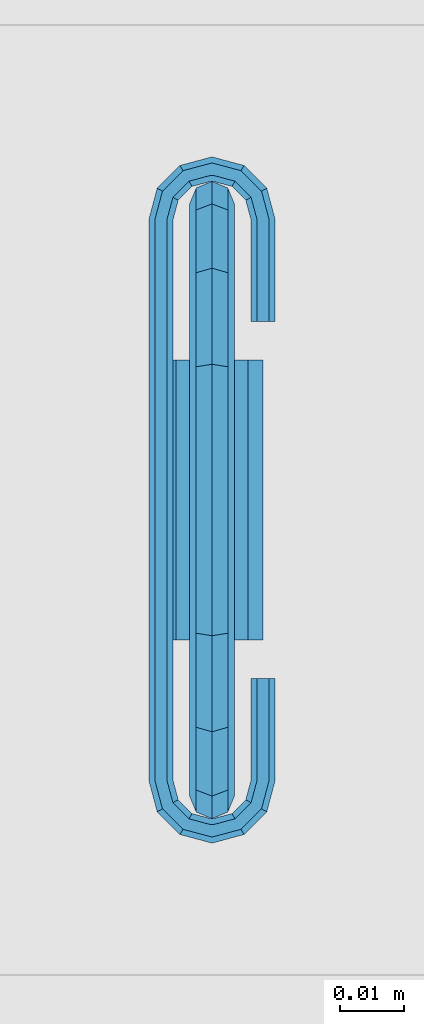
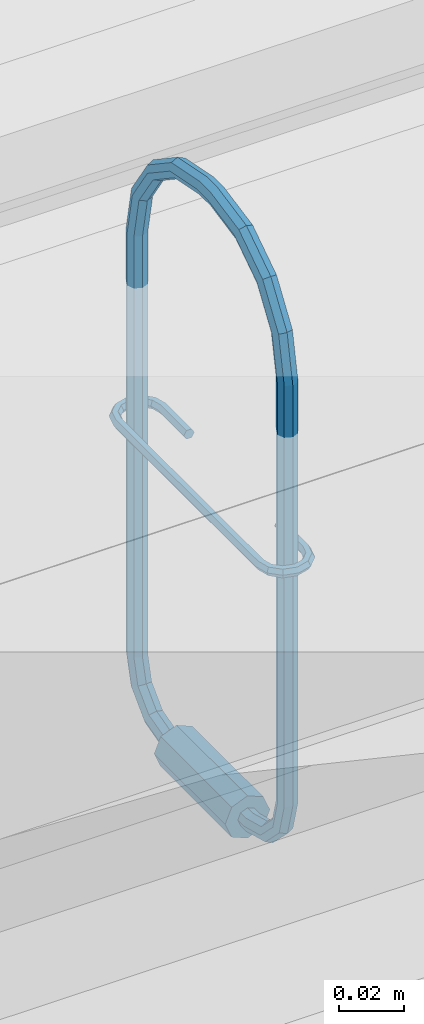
# One storey, part 192 of 230: 1 beam.
"""IFC4X3_ADD2 building model written with IfcOpenShell, lengths in millimetres."""

from ifc_helpers import new_model, si_unit, direction, origin_with_axes, place, context, subcontext, project, spatial, triangles, element, save


model = new_model("IFC4X3_ADD2")

# Units and contexts
model_context = context("Model", 3, precision=1e-05, world=origin_with_axes(), true_north=direction((0.0, 1.0)))
body_context = subcontext(model_context, "Body", "Model", "MODEL_VIEW")
ifc_project = project(units=[si_unit("LENGTHUNIT", "METRE", prefix="MILLI"), si_unit("AREAUNIT", "SQUARE_METRE"), si_unit("VOLUMEUNIT", "CUBIC_METRE"), si_unit("PLANEANGLEUNIT", "RADIAN"), si_unit("TIMEUNIT", "SECOND"), si_unit("MASSUNIT", "GRAM")], contexts=[model_context])

# Site, building, storey
site_placement = place(None, origin_with_axes())
site = spatial("IfcSite", under=ifc_project, at=site_placement, Name="Site", CompositionType="ELEMENT")
building_placement = place(site_placement, origin_with_axes())
building = spatial("IfcBuilding", under=site, at=building_placement, Name="IFC Building Story")
storey_placement = place(building_placement, origin_with_axes())
storey = spatial("IfcBuildingStorey", under=building, at=storey_placement, Name="ETAGE 00 (0)", Elevation=0.0)

# Beam
beam_placement = place(storey_placement, origin_with_axes())
element("IfcBeam", 1, at=beam_placement, inside=storey, Name="LU2", ObjectType="D7", context=body_context, shape_type="Tessellation", body=[
    triangles([(38804.68954467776, 8754.501100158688, 4038.500006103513), (38804.68954467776, 8744.001159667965, 4041.313497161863), (38803.66402587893, 8742.76344451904, 4039.170023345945), (38803.66402587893, 8754.501100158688, 4036.025157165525), (38804.68954467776, 8736.31441955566, 4048.999946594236), (38803.66402587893, 8734.170945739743, 4047.762522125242), (38801.1897583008, 8733.283209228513, 4047.250053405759), (38801.1897583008, 8742.250685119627, 4038.282286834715), (38798.71316528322, 8742.76344451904, 4039.170023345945), (38798.71316528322, 8734.170945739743, 4047.762522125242), (38797.68997192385, 8744.001159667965, 4041.313497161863), (38797.68997192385, 8736.31441955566, 4048.999946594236), (38798.71316528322, 8738.457893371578, 4050.237371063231), (38798.71316528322, 8745.238293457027, 4043.456680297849), (38801.1897583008, 8739.34562988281, 4050.750130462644), (38801.1897583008, 8745.751052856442, 4044.34441680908), (38803.66402587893, 8738.457893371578, 4050.237371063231), (38803.66402587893, 8745.238293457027, 4043.456680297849), (38804.68954467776, 8733.50063781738, 4059.499887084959), (38803.66402587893, 8735.975486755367, 4059.499887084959), (38803.66402587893, 8731.025788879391, 4059.499887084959), (38801.1897583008, 8730.000851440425, 4059.499887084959), (38798.71316528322, 8731.025788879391, 4059.499887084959), (38797.68997192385, 8733.50063781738, 4059.499887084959), (38798.71316528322, 8735.975486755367, 4059.499887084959), (38801.1897583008, 8737.001005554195, 4059.499887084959), (38803.66402587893, 8735.975486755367, 4218.50006561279), (38801.1897583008, 8737.001005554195, 4218.50006561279), (38803.66402587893, 8739.060763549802, 4234.008421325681), (38801.1897583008, 8740.007798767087, 4233.616003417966), (38803.66402587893, 8747.845111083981, 4247.155583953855), (38801.1897583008, 8748.570066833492, 4246.430628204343), (38804.68954467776, 8746.095217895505, 4248.905477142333), (38804.68954467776, 8736.774275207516, 4234.955456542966), (38803.66402587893, 8744.345324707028, 4250.65566101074), (38803.66402587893, 8734.487786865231, 4235.902491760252), (38801.1897583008, 8743.620368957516, 4251.38032608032), (38801.1897583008, 8733.540751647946, 4236.294909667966), (38798.71316528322, 8734.487786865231, 4235.902491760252), (38798.71316528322, 8744.345324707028, 4250.65566101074), (38797.68997192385, 8736.774275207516, 4234.955456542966), (38797.68997192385, 8746.095217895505, 4248.905477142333), (38798.71316528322, 8747.845111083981, 4247.155583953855), (38798.71316528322, 8739.060763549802, 4234.008421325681), (38801.1897583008, 8761.384982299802, 4254.993186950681), (38798.71316528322, 8760.992564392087, 4255.940222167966), (38803.66402587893, 8760.992564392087, 4255.940222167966), (38804.68954467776, 8760.045529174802, 4258.226710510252), (38803.66402587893, 8759.098493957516, 4260.513198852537), (38801.1897583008, 8758.7060760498, 4261.460524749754), (38798.71316528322, 8759.098493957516, 4260.513198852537), (38797.68997192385, 8760.045529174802, 4258.226710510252), (38798.71316528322, 8776.500920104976, 4259.025208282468), (38797.68997192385, 8776.500920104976, 4261.500057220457), (38801.1897583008, 8776.500920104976, 4257.999980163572), (38803.66402587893, 8776.500920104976, 4259.025208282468), (38804.68954467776, 8776.500920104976, 4261.500057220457), (38803.66402587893, 8776.500920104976, 4263.974906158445), (38801.1897583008, 8776.500920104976, 4265.000134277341), (38798.71316528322, 8776.500920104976, 4263.974906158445), (38798.71316528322, 8783.501074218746, 4263.974906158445), (38797.68997192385, 8783.501074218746, 4261.500057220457), (38798.71316528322, 8800.903500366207, 4260.513198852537), (38797.68997192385, 8799.956465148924, 4258.226710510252), (38798.71316528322, 8815.656669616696, 4250.65566101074), (38797.68997192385, 8813.906776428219, 4248.905477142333), (38798.71316528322, 8812.156301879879, 4247.155583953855), (38798.71316528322, 8799.009429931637, 4255.940222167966), (38801.1897583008, 8811.431346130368, 4246.430628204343), (38801.1897583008, 8798.617012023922, 4254.993186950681), (38803.66402587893, 8812.156301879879, 4247.155583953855), (38803.66402587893, 8799.009429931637, 4255.940222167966), (38804.68954467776, 8813.906776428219, 4248.905477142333), (38804.68954467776, 8799.956465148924, 4258.226710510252), (38803.66402587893, 8815.656669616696, 4250.65566101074), (38803.66402587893, 8800.903500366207, 4260.513198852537), (38801.1897583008, 8816.381625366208, 4251.38032608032), (38801.1897583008, 8801.295918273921, 4261.460524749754), (38801.1897583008, 8826.46124267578, 4236.294909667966), (38798.71316528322, 8825.514207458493, 4235.902491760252), (38797.68997192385, 8823.227719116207, 4234.955456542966), (38798.71316528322, 8820.941230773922, 4234.008421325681), (38801.1897583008, 8819.994195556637, 4233.616003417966), (38803.66402587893, 8820.941230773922, 4234.008421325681), (38804.68954467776, 8823.227719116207, 4234.955456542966), (38803.66402587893, 8825.514207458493, 4235.902491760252), (38803.66402587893, 8828.975624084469, 4218.50006561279), (38801.1897583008, 8830.001142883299, 4218.50006561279), (38798.71316528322, 8828.975624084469, 4218.50006561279), (38797.68997192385, 8826.500775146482, 4218.50006561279), (38798.71316528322, 8824.025926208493, 4218.50006561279), (38801.1897583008, 8823.000988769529, 4218.50006561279), (38803.66402587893, 8824.025926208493, 4218.50006561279), (38804.68954467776, 8826.500775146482, 4218.50006561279), (38804.68954467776, 8826.500775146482, 4059.499887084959), (38803.66402587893, 8828.975624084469, 4059.499887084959), (38804.68954467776, 8823.687574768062, 4048.999946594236), (38803.66402587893, 8825.830467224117, 4047.762522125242), (38804.68954467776, 8816.000834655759, 4041.313497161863), (38803.66402587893, 8817.238549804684, 4039.170023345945), (38801.1897583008, 8817.750727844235, 4038.282286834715), (38801.1897583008, 8826.71878509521, 4047.250053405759), (38798.71316528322, 8825.830467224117, 4047.762522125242), (38798.71316528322, 8817.238549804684, 4039.170023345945), (38797.68997192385, 8823.687574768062, 4048.999946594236), (38797.68997192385, 8816.000834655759, 4041.313497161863), (38798.71316528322, 8814.763700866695, 4043.456680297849), (38798.71316528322, 8821.544100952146, 4050.237371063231), (38801.1897583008, 8814.250941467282, 4044.34441680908), (38801.1897583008, 8820.656364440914, 4050.750130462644), (38803.66402587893, 8814.763700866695, 4043.456680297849), (38803.66402587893, 8821.544100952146, 4050.237371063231), (38804.68954467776, 8805.500894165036, 4038.500006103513), (38803.66402587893, 8805.500894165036, 4040.974855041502), (38803.66402587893, 8805.500894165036, 4036.025157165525), (38801.1897583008, 8805.500894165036, 4034.999929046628), (38798.71316528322, 8805.500894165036, 4036.025157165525), (38797.68997192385, 8805.500894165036, 4038.500006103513), (38798.71316528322, 8805.500894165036, 4040.974855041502), (38801.1897583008, 8805.500894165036, 4042.000083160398), (38803.66402587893, 8802.001107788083, 4040.974855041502), (38801.1897583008, 8802.001107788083, 4042.000083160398), (38798.71316528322, 8802.001107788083, 4040.974855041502), (38797.68997192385, 8802.001107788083, 4038.500006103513), (38798.71316528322, 8802.001107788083, 4036.025157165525), (38801.1897583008, 8802.001107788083, 4034.999929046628), (38803.66402587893, 8802.001107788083, 4036.025157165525), (38804.68954467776, 8802.001107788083, 4038.500006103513), (38809.18927001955, 8802.001107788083, 4038.500006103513), (38801.1897583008, 8802.001107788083, 4030.4999130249), (38795.53196411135, 8802.001107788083, 4032.843083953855), (38793.18792114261, 8802.001107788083, 4038.500006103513), (38806.84522705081, 8802.001107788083, 4032.843083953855), (38795.53196411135, 8802.001107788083, 4044.156928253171), (38801.1897583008, 8802.001107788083, 4046.500099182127), (38806.84522705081, 8802.001107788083, 4044.156928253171), (38801.1897583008, 8758.000886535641, 4030.4999130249), (38795.53196411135, 8758.000886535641, 4032.843083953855), (38793.18792114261, 8758.000886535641, 4038.500006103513), (38795.53196411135, 8758.000886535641, 4044.156928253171), (38801.1897583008, 8758.000886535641, 4046.500099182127), (38806.84522705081, 8758.000886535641, 4044.156928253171), (38809.18927001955, 8758.000886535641, 4038.500006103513), (38806.84522705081, 8758.000886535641, 4032.843083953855), (38803.66402587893, 8758.000886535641, 4040.974855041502), (38804.68954467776, 8758.000886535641, 4038.500006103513), (38798.71316528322, 8758.000886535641, 4040.974855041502), (38801.1897583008, 8758.000886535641, 4042.000083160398), (38797.68997192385, 8758.000886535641, 4038.500006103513), (38798.71316528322, 8758.000886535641, 4036.025157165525), (38801.1897583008, 8758.000886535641, 4034.999929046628), (38803.66402587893, 8758.000886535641, 4036.025157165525), (38801.1897583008, 8754.501100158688, 4034.999929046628), (38798.71316528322, 8754.501100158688, 4036.025157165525), (38797.68997192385, 8754.501100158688, 4038.500006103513), (38798.71316528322, 8754.501100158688, 4040.974855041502), (38801.1897583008, 8754.501100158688, 4042.000083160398), (38803.66402587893, 8754.501100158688, 4040.974855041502), (38803.66402587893, 8824.025926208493, 4059.499887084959), (38801.1897583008, 8823.000988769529, 4059.499887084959), (38798.71316528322, 8824.025926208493, 4059.499887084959), (38797.68997192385, 8826.500775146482, 4059.499887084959), (38798.71316528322, 8828.975624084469, 4059.499887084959), (38801.1897583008, 8830.001142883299, 4059.499887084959), (38801.1897583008, 8783.501074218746, 4265.000134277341), (38803.66402587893, 8783.501074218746, 4263.974906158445), (38804.68954467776, 8783.501074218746, 4261.500057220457), (38803.66402587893, 8783.501074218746, 4259.025208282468), (38801.1897583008, 8783.501074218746, 4257.999980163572), (38798.71316528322, 8783.501074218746, 4259.025208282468), (38798.71316528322, 8735.975486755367, 4218.50006561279), (38797.68997192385, 8733.50063781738, 4218.50006561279), (38798.71316528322, 8731.025788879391, 4218.50006561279), (38801.1897583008, 8730.000851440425, 4218.50006561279), (38803.66402587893, 8731.025788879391, 4218.50006561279), (38804.68954467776, 8733.50063781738, 4218.50006561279), (38808.23816528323, 8752.000671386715, 4148.354637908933), (38808.23816528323, 8735.941186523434, 4148.354637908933), (38807.28938598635, 8752.000671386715, 4149.999886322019), (38807.28938598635, 8735.941186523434, 4149.999886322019), (38807.31496582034, 8732.49604797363, 4148.354637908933), (38806.49408569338, 8732.97101898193, 4149.999886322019), (38804.79418945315, 8729.974108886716, 4148.354637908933), (38804.31979980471, 8730.796733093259, 4149.999886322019), (38807.31496582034, 8732.49604797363, 4151.645425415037), (38804.79418945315, 8729.974108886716, 4151.645425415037), (38793.41581420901, 8731.546105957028, 4151.645425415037), (38795.06222534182, 8732.49604797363, 4151.645425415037), (38792.23914184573, 8735.941186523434, 4151.645425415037), (38797.583001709, 8729.974108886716, 4151.645425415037), (38796.63422241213, 8728.328279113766, 4151.645425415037), (38794.13902587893, 8735.941186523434, 4151.645425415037), (38801.02930297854, 8729.050909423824, 4151.645425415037), (38801.34788818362, 8727.151025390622, 4151.645425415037), (38801.02930297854, 8727.151025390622, 4151.645425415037), (38801.34788818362, 8729.050909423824, 4151.645425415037), (38794.13902587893, 8824.06080780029, 4151.645425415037), (38792.23914184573, 8824.06080780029, 4151.645425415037), (38797.583001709, 8830.027885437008, 4151.645425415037), (38796.63422241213, 8831.673133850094, 4151.645425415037), (38793.41581420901, 8828.455888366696, 4151.645425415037), (38795.06222534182, 8827.505946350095, 4151.645425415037), (38801.02930297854, 8830.9510848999, 4151.645425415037), (38801.34788818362, 8832.850968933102, 4151.645425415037), (38801.02930297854, 8832.850968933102, 4151.645425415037), (38801.34788818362, 8830.9510848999, 4151.645425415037), (38805.74296875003, 8831.673133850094, 4151.645425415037), (38808.96137695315, 8731.546105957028, 4151.645425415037), (38805.74296875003, 8728.328279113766, 4151.645425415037), (38810.13804931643, 8735.941186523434, 4151.645425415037), (38808.23816528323, 8735.941186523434, 4151.645425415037), (38810.13804931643, 8752.000671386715, 4151.645425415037), (38808.23816528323, 8752.000671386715, 4151.645425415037), (38804.79418945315, 8830.027885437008, 4151.645425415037), (38808.96137695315, 8828.455888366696, 4151.645425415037), (38807.31496582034, 8827.505946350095, 4151.645425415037), (38810.13804931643, 8824.06080780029, 4151.645425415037), (38808.23816528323, 8824.06080780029, 4151.645425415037), (38810.13804931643, 8808.000741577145, 4151.645425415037), (38808.23816528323, 8808.000741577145, 4151.645425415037), (38810.13804931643, 8808.000741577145, 4148.354637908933), (38808.23816528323, 8808.000741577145, 4148.354637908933), (38807.28938598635, 8808.000741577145, 4149.999886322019), (38811.08915405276, 8808.000741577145, 4149.999886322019), (38808.23816528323, 8824.06080780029, 4148.354637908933), (38807.28938598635, 8824.06080780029, 4149.999886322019), (38793.41581420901, 8828.455888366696, 4148.354637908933), (38795.06222534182, 8827.505946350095, 4148.354637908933), (38792.23914184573, 8824.06080780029, 4148.354637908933), (38797.583001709, 8830.027885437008, 4148.354637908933), (38796.63422241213, 8831.673133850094, 4148.354637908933), (38794.13902587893, 8824.06080780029, 4148.354637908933), (38801.02930297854, 8830.9510848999, 4148.354637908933), (38801.34788818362, 8832.850968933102, 4148.354637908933), (38801.34788818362, 8830.9510848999, 4148.354637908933), (38801.02930297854, 8832.850968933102, 4148.354637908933), (38794.13902587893, 8735.941186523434, 4148.354637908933), (38792.23914184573, 8735.941186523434, 4148.354637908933), (38797.583001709, 8729.974108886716, 4148.354637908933), (38796.63422241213, 8728.328279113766, 4148.354637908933), (38793.41581420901, 8731.546105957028, 4148.354637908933), (38795.06222534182, 8732.49604797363, 4148.354637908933), (38801.02930297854, 8729.050909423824, 4148.354637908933), (38801.02930297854, 8727.151025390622, 4148.354637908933), (38801.34788818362, 8727.151025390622, 4148.354637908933), (38801.34788818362, 8729.050909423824, 4148.354637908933), (38805.74296875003, 8728.328279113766, 4148.354637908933), (38804.79418945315, 8830.027885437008, 4148.354637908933), (38808.96137695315, 8828.455888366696, 4148.354637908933), (38807.31496582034, 8827.505946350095, 4148.354637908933), (38805.74296875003, 8831.673133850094, 4148.354637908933), (38810.13804931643, 8824.06080780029, 4148.354637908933), (38808.96137695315, 8731.546105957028, 4148.354637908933), (38810.13804931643, 8735.941186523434, 4148.354637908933), (38810.13804931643, 8752.000671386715, 4148.354637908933), (38811.08915405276, 8824.06080780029, 4149.999886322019), (38809.78458251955, 8828.930859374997, 4149.999886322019), (38806.21968383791, 8832.495758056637, 4149.999886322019), (38801.34788818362, 8833.800910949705, 4149.999886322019), (38801.02930297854, 8833.800910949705, 4149.999886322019), (38796.1598327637, 8832.495758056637, 4149.999886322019), (38792.59493408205, 8828.930859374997, 4149.999886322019), (38791.2880371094, 8824.06080780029, 4149.999886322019), (38791.2880371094, 8735.941186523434, 4149.999886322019), (38792.59493408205, 8731.071134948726, 4149.999886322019), (38796.1598327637, 8727.505654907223, 4149.999886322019), (38801.02930297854, 8726.20108337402, 4149.999886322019), (38801.34788818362, 8726.20108337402, 4149.999886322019), (38806.21968383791, 8727.505654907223, 4149.999886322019), (38809.78458251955, 8731.071134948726, 4149.999886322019), (38811.08915405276, 8735.941186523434, 4149.999886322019), (38811.08915405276, 8752.000671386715, 4149.999886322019), (38801.34788818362, 8730.000851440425, 4149.999886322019), (38801.02930297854, 8730.000851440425, 4149.999886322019), (38798.0597167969, 8730.796733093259, 4149.999886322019), (38795.88543090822, 8732.97101898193, 4149.999886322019), (38795.09013061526, 8735.941186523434, 4149.999886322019), (38795.09013061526, 8824.06080780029, 4149.999886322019), (38795.88543090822, 8827.030975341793, 4149.999886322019), (38798.0597167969, 8829.205261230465, 4149.999886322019), (38801.02930297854, 8830.001142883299, 4149.999886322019), (38801.34788818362, 8830.001142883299, 4149.999886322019), (38804.31979980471, 8829.205261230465, 4149.999886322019), (38806.49408569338, 8827.030975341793, 4149.999886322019)], [[1, 2, 3], [3, 4, 1], [2, 5, 6], [6, 3, 2], [3, 6, 7], [7, 8, 3], [8, 7, 9], [10, 9, 7], [9, 10, 11], [12, 11, 10], [13, 14, 11], [11, 12, 13], [15, 16, 14], [14, 13, 15], [17, 18, 15], [16, 15, 18], [5, 2, 17], [18, 17, 2], [19, 5, 20], [17, 20, 5], [5, 19, 21], [21, 6, 5], [6, 21, 22], [22, 7, 6], [7, 22, 10], [23, 10, 22], [10, 23, 12], [24, 12, 23], [25, 13, 12], [12, 24, 25], [26, 15, 13], [13, 25, 26], [20, 17, 26], [15, 26, 17], [27, 20, 26], [26, 28, 27], [29, 27, 30], [28, 30, 27], [31, 29, 32], [30, 32, 29], [33, 34, 31], [29, 31, 34], [34, 33, 35], [35, 36, 34], [36, 35, 37], [37, 38, 36], [38, 37, 39], [40, 39, 37], [39, 40, 41], [42, 41, 40], [43, 44, 41], [41, 42, 43], [32, 30, 44], [44, 43, 32], [45, 32, 43], [43, 46, 45], [47, 31, 45], [32, 45, 31], [48, 33, 47], [31, 47, 33], [33, 48, 49], [49, 35, 33], [35, 49, 50], [50, 37, 35], [37, 50, 40], [51, 40, 50], [40, 51, 42], [52, 42, 51], [46, 43, 42], [42, 52, 46], [53, 46, 52], [52, 54, 53], [55, 45, 46], [46, 53, 55], [56, 47, 55], [45, 55, 47], [57, 48, 56], [47, 56, 48], [48, 57, 58], [58, 49, 48], [49, 58, 59], [59, 50, 49], [50, 59, 51], [60, 51, 59], [51, 60, 52], [54, 52, 60], [60, 61, 54], [62, 54, 61], [61, 63, 62], [64, 62, 63], [63, 65, 64], [66, 64, 65], [67, 68, 64], [64, 66, 67], [69, 70, 68], [68, 67, 69], [71, 72, 69], [70, 69, 72], [73, 74, 71], [72, 71, 74], [74, 73, 75], [75, 76, 74], [76, 75, 77], [77, 78, 76], [78, 77, 63], [65, 63, 77], [77, 79, 65], [80, 65, 79], [65, 80, 66], [81, 66, 80], [82, 67, 66], [66, 81, 82], [83, 69, 67], [67, 82, 83], [84, 71, 83], [69, 83, 71], [85, 73, 84], [71, 84, 73], [73, 85, 86], [86, 75, 73], [75, 86, 79], [79, 77, 75], [86, 87, 88], [88, 79, 86], [79, 88, 80], [89, 80, 88], [80, 89, 81], [90, 81, 89], [91, 82, 81], [81, 90, 91], [92, 83, 82], [82, 91, 92], [93, 84, 92], [83, 92, 84], [94, 85, 93], [84, 93, 85], [85, 94, 87], [87, 86, 85], [94, 95, 96], [96, 87, 94], [95, 97, 98], [98, 96, 95], [97, 99, 100], [100, 98, 97], [98, 100, 101], [101, 102, 98], [102, 101, 103], [104, 103, 101], [103, 104, 105], [106, 105, 104], [107, 108, 105], [105, 106, 107], [109, 110, 108], [108, 107, 109], [111, 112, 109], [110, 109, 112], [99, 97, 111], [112, 111, 97], [113, 99, 114], [111, 114, 99], [99, 113, 115], [115, 100, 99], [100, 115, 116], [116, 101, 100], [101, 116, 104], [117, 104, 116], [104, 117, 106], [118, 106, 117], [119, 107, 106], [106, 118, 119], [120, 109, 107], [107, 119, 120], [114, 111, 120], [109, 120, 111], [121, 114, 122], [120, 122, 114], [122, 120, 119], [119, 123, 122], [123, 119, 124], [118, 124, 119], [117, 125, 124], [124, 118, 117], [116, 126, 117], [125, 117, 126], [115, 127, 126], [126, 116, 115], [113, 128, 115], [127, 115, 128], [128, 113, 114], [114, 121, 128], [127, 128, 129], [125, 126, 130], [130, 131, 125], [132, 124, 125], [132, 125, 131], [133, 126, 127], [126, 133, 130], [127, 129, 133], [134, 124, 132], [123, 135, 122], [123, 124, 134], [134, 135, 123], [136, 129, 128], [128, 121, 136], [122, 136, 121], [136, 122, 135], [130, 137, 131], [138, 131, 137], [131, 138, 132], [139, 132, 138], [140, 134, 139], [132, 139, 134], [141, 135, 140], [134, 140, 135], [142, 136, 141], [135, 141, 136], [143, 129, 142], [136, 142, 129], [129, 143, 133], [144, 133, 143], [133, 144, 130], [137, 130, 144], [145, 146, 143], [147, 148, 141], [141, 140, 147], [139, 149, 147], [139, 147, 140], [142, 148, 145], [148, 142, 141], [145, 143, 142], [138, 149, 139], [150, 137, 151], [150, 149, 138], [138, 137, 150], [144, 143, 146], [146, 152, 144], [151, 144, 152], [144, 151, 137], [146, 1, 152], [4, 152, 1], [152, 4, 151], [153, 151, 4], [151, 153, 150], [154, 150, 153], [150, 154, 149], [155, 149, 154], [156, 147, 155], [149, 155, 147], [157, 148, 156], [147, 156, 148], [158, 145, 157], [148, 157, 145], [1, 146, 158], [145, 158, 146], [2, 1, 18], [158, 18, 1], [18, 158, 16], [157, 16, 158], [16, 157, 156], [156, 14, 16], [14, 156, 155], [155, 11, 14], [154, 9, 155], [11, 155, 9], [153, 8, 154], [9, 154, 8], [4, 3, 8], [8, 153, 4], [97, 95, 112], [159, 112, 95], [112, 159, 110], [160, 110, 159], [110, 160, 161], [161, 108, 110], [108, 161, 162], [162, 105, 108], [163, 103, 162], [105, 162, 103], [164, 102, 163], [103, 163, 102], [96, 98, 102], [102, 164, 96], [87, 96, 88], [164, 88, 96], [88, 164, 163], [163, 89, 88], [89, 163, 90], [162, 90, 163], [161, 91, 162], [90, 162, 91], [160, 92, 161], [91, 161, 92], [159, 93, 92], [92, 160, 159], [95, 94, 93], [93, 159, 95], [165, 78, 61], [63, 61, 78], [166, 76, 78], [78, 165, 166], [167, 74, 76], [76, 166, 167], [74, 167, 72], [168, 72, 167], [72, 168, 70], [169, 70, 168], [70, 169, 170], [170, 68, 70], [68, 170, 62], [62, 64, 68], [170, 53, 62], [54, 62, 53], [169, 55, 170], [53, 170, 55], [168, 56, 55], [55, 169, 168], [167, 57, 56], [56, 168, 167], [57, 167, 166], [166, 58, 57], [58, 166, 165], [165, 59, 58], [59, 165, 60], [61, 60, 165], [30, 28, 171], [171, 44, 30], [44, 171, 172], [172, 41, 44], [173, 39, 172], [41, 172, 39], [174, 38, 173], [39, 173, 38], [175, 36, 38], [38, 174, 175], [176, 34, 36], [36, 175, 176], [34, 176, 29], [27, 29, 176], [176, 19, 20], [20, 27, 176], [19, 176, 175], [175, 21, 19], [21, 175, 22], [174, 22, 175], [22, 174, 173], [173, 23, 22], [23, 173, 24], [172, 24, 173], [171, 25, 172], [24, 172, 25], [28, 26, 171], [25, 171, 26], [177, 178, 179], [180, 179, 178], [178, 181, 182], [182, 180, 178], [182, 181, 183], [183, 184, 182], [185, 182, 186], [184, 186, 182], [187, 188, 189], [190, 188, 187], [190, 187, 191], [192, 189, 188], [193, 190, 191], [194, 193, 195], [193, 194, 196], [195, 193, 191], [189, 197, 198], [199, 200, 201], [192, 197, 189], [198, 202, 201], [202, 198, 197], [201, 202, 199], [203, 204, 205], [203, 205, 200], [203, 206, 204], [199, 203, 200], [207, 204, 206], [186, 208, 185], [196, 209, 186], [209, 208, 186], [194, 209, 196], [210, 211, 185], [185, 208, 210], [211, 212, 213], [212, 211, 210], [214, 215, 207], [216, 215, 214], [214, 207, 206], [217, 215, 216], [218, 219, 217], [219, 218, 220], [218, 217, 216], [220, 221, 219], [222, 220, 223], [219, 221, 224], [220, 222, 221], [225, 222, 223], [223, 226, 225], [227, 228, 229], [230, 228, 227], [230, 227, 231], [232, 229, 228], [233, 234, 235], [233, 230, 231], [231, 236, 233], [236, 234, 233], [229, 237, 238], [239, 240, 241], [232, 237, 229], [238, 242, 241], [242, 238, 237], [241, 242, 239], [243, 244, 240], [240, 239, 243], [243, 245, 244], [245, 243, 246], [246, 247, 245], [248, 249, 250], [235, 251, 248], [251, 249, 248], [234, 251, 235], [252, 225, 250], [250, 249, 252], [225, 221, 222], [221, 225, 252], [183, 253, 247], [181, 253, 183], [183, 247, 246], [254, 253, 181], [178, 255, 254], [255, 178, 177], [178, 254, 181], [256, 224, 221], [221, 252, 256], [224, 256, 219], [217, 219, 256], [217, 256, 215], [257, 215, 256], [256, 252, 249], [249, 257, 256], [257, 249, 258], [251, 258, 249], [215, 257, 258], [258, 207, 215], [207, 258, 259], [259, 204, 207], [204, 259, 205], [260, 205, 259], [205, 260, 200], [261, 200, 260], [260, 236, 231], [231, 261, 260], [259, 234, 236], [236, 260, 259], [258, 251, 259], [234, 259, 251], [261, 231, 227], [227, 262, 261], [200, 261, 201], [262, 201, 261], [201, 262, 263], [263, 198, 201], [189, 198, 264], [263, 264, 198], [265, 187, 264], [189, 264, 187], [241, 265, 264], [264, 238, 241], [229, 238, 264], [264, 263, 229], [262, 227, 263], [229, 263, 227], [240, 266, 241], [265, 241, 266], [266, 191, 187], [187, 265, 266], [267, 195, 191], [191, 266, 267], [268, 194, 195], [195, 267, 268], [269, 209, 268], [194, 268, 209], [247, 269, 268], [268, 245, 247], [245, 268, 244], [267, 244, 268], [244, 267, 240], [266, 240, 267], [253, 270, 269], [269, 247, 253], [270, 208, 269], [209, 269, 208], [271, 210, 208], [208, 270, 271], [271, 272, 210], [212, 210, 272], [212, 177, 213], [255, 212, 272], [213, 177, 179], [212, 255, 177], [272, 271, 255], [254, 255, 271], [254, 271, 253], [270, 253, 271], [211, 213, 179], [179, 180, 211], [185, 211, 182], [180, 182, 211], [184, 183, 246], [246, 273, 184], [186, 184, 196], [273, 196, 184], [196, 273, 193], [274, 193, 273], [193, 274, 275], [275, 190, 193], [190, 275, 276], [276, 188, 190], [276, 277, 192], [192, 188, 276], [277, 278, 197], [197, 192, 277], [278, 279, 197], [202, 197, 279], [280, 199, 279], [202, 279, 199], [281, 203, 280], [199, 280, 203], [282, 206, 281], [203, 281, 206], [283, 214, 206], [206, 282, 283], [284, 216, 214], [214, 283, 284], [218, 216, 284], [284, 226, 218], [220, 218, 223], [226, 223, 218], [250, 225, 284], [226, 284, 225], [250, 284, 248], [283, 248, 284], [248, 283, 235], [282, 235, 283], [235, 282, 281], [281, 233, 235], [233, 281, 280], [280, 230, 233], [230, 280, 279], [279, 228, 230], [279, 278, 232], [232, 228, 279], [278, 277, 232], [237, 232, 277], [277, 276, 237], [242, 237, 276], [275, 239, 276], [242, 276, 239], [274, 243, 275], [239, 275, 243], [273, 246, 243], [243, 274, 273]]),
])

save(model, "model.ifc")
